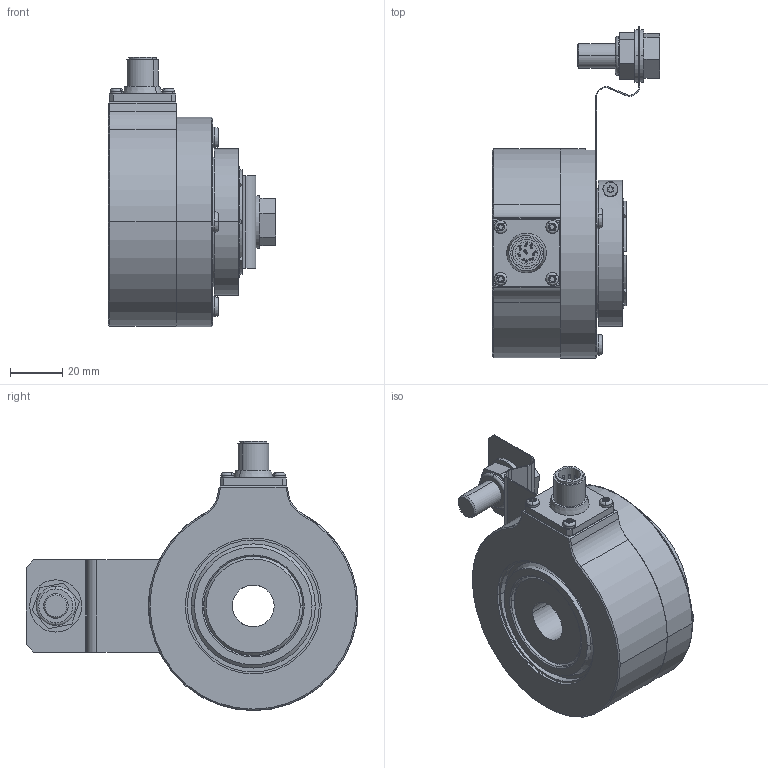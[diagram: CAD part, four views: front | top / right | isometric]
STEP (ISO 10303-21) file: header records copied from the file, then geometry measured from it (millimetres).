
FILE_DESCRIPTION (( 'STEP AP203' ), '1' );
FILE_NAME ('K80I.OXX.XXXXX.XH24816.6XRC2.step', '2025-12-09T10:25:19', ( '' ), ( '' ), 'SwSTEP 2.0', 'SolidWorks 2021', '' );
FILE_SCHEMA (( 'CONFIG_CONTROL_DESIGN' ));
Length unit declared in the file: millimetre
Products named in the file (1): K80I.OXX.XXXXX.XH24816.6XRC2
Bounding box: 63.95 x 127.03 x 103.08 mm (x, y, z)
Volume: 221754.8 mm3; surface area: 80770.6 mm2
Topology: 8 solids, 10 shells, 738 faces, 1939 edges, 1257 vertices
Faces by surface type: cylinder 325, plane 267, bspline 76, cone 42, sphere 16, torus 12
Entity records: 28046 total; most frequent: CARTESIAN_POINT 9891, ORIENTED_EDGE 3798, DIRECTION 3751, EDGE_CURVE 1899, AXIS2_PLACEMENT_3D 1415, VERTEX_POINT 1241, VECTOR 921, LINE 921
